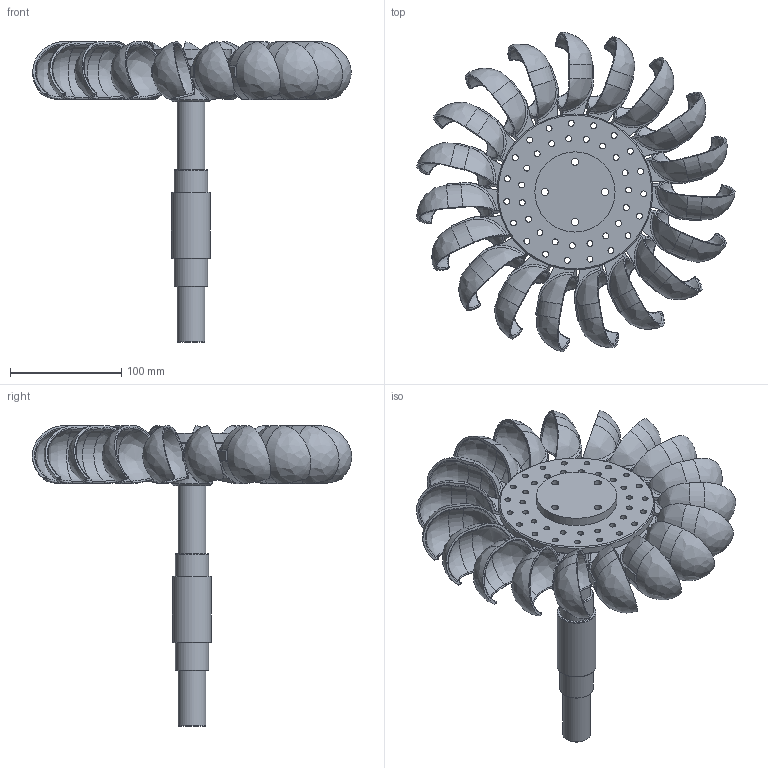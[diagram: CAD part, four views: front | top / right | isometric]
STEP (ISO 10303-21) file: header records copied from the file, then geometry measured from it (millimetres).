
FILE_DESCRIPTION(/* description */ (''),/* implementation_level */ '2;1');
FILE_NAME(/* name */ 'Assieme_turgo2.stp',/* time_stamp */ '2025-03-11T18:30:15+01:00',/* author */ ('R5800u'),/* organization */ (''),/* preprocessor_version */ 'ST-DEVELOPER v20',/* originating_system */ 'Autodesk Inventor 2025',/* authorisation */ '');
FILE_SCHEMA (('AUTOMOTIVE_DESIGN { 1 0 10303 214 3 1 1 }'));
Length unit declared in the file: millimetre
Products named in the file (7): Assieme_turgo; Parte2; disco; albero; Parte1; disco3; disco_intermedio
Assembly tree (24 placements, depth 2):
  Assieme_turgo
    Parte2
    disco
    albero
    Parte1  x19
    disco3
    disco_intermedio
Bounding box: 286.05 x 287 x 270.05 mm (x, y, z)
Volume: 813008.4 mm3; surface area: 353282.7 mm2
Topology: 23 solids, 23 shells, 814 faces, 2058 edges, 1277 vertices
Faces by surface type: cylinder 352, bspline 266, plane 147, sphere 38, cone 10, torus 1
Full cylindrical faces by diameter (mm): 5.3 x114, 6.4 x16, 25 x5, 30 x2, 35 x1, 37 x1, 72 x1, 75 x1, 140 x2
Entity records: 6755 total; most frequent: CARTESIAN_POINT 1696, DIRECTION 1039, ORIENTED_EDGE 874, AXIS2_PLACEMENT_3D 449, EDGE_CURVE 437, EDGE_LOOP 366, VERTEX_POINT 287, CIRCLE 264
